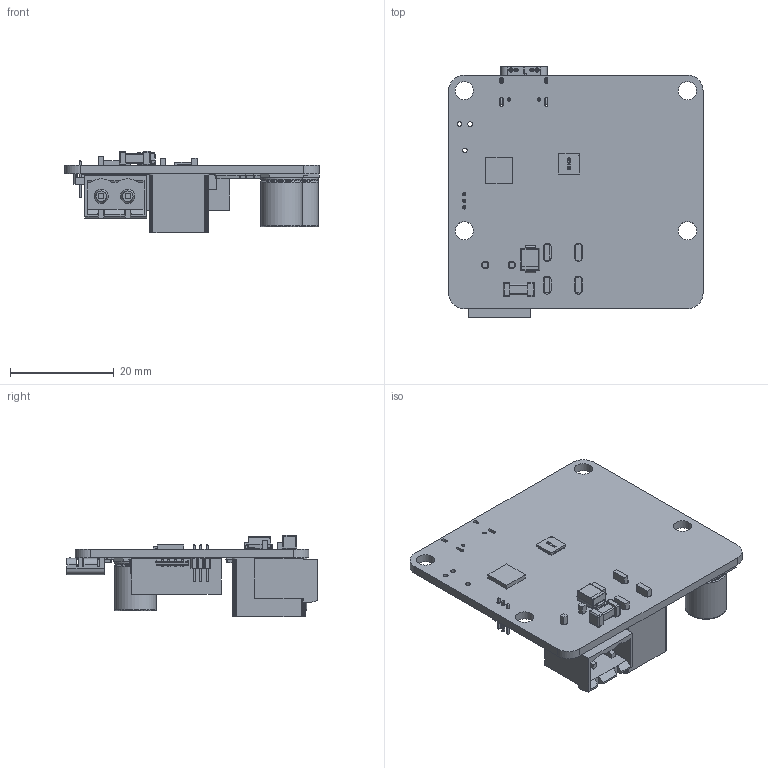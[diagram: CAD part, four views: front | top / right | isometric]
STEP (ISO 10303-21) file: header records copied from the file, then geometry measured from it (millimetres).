
FILE_DESCRIPTION(/* description */ ('Open CASCADE Model','CAx-IF Rec.Pracs.---Representation and Presentation of Product Manufacturing Information (PMI)---4.0---2014-10-13'),/* implementation_level */ '2;1');
FILE_NAME(/* name */ 'CG-PD140UM_CAD.step',/* time_stamp */ '2025-04-01T08:30:44-04:00',/* author */ (''),/* organization */ (''),/* preprocessor_version */ 'ST-DEVELOPER v20',/* originating_system */ 'Autodesk Translation Framework v13.20.0.188',/* authorisation */ '');
FILE_SCHEMA (('AP242_MANAGED_MODEL_BASED_3D_ENGINEERING_MIM_LF { 1 0 10303 442 1 1 4 }'));
Products named in the file (51): PCB; BoardCG-PD140UM; Open CASCADE STEP translator 7.5 1.1.1; CHK1CG-PD140UM; 7103303056; Extruded; 7103300496; Extruded_1; J2CG-PD140UM; User Library-DS1031-01-1x3P8BV3-1; HousingBody; Pin1Body; Pin2Body; Pin3Body; SW1CG-PD140UM; User Library-DHN-04F; 750266824; Open_CASCADE_STEP_translator_6.8_20.1; Body; Open_CASCADE_STEP_translator_6.8_20.2.1; Leader; L1CG-PD140UM; 6412445536; Extruded_2; 6412445696; Extruded_3; R11CG-PD140UM; RESC1608X55N EIA 0603; C6CG-PD140UM; U1CG-PD140UM; User Library-QFN 32; Q7CG-PD140UM; Q6CG-PD140UM; F1CG-PD140UM; User Library-Littlefuse 0451 SMD; TVS1CG-PD140UM; SMB; J1CG-PD140UM; User Library-USB - C_m; J_IN1CG-PD140UM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
Assembly tree (67 placements, depth 6):
  PCB
    BoardCG-PD140UM
      Open CASCADE STEP translator 7.5 1.1.1
    CHK1CG-PD140UM
      7103303056
        Extruded
      7103300496  x4
        Extruded_1
    J2CG-PD140UM
      User Library-DS1031-01-1x3P8BV3-1
        HousingBody
        Pin1Body
        Pin2Body
        Pin3Body
    SW1CG-PD140UM
      User Library-DHN-04F
        750266824
          Open_CASCADE_STEP_translator_6.8_20.1
          Body
            Open_CASCADE_STEP_translator_6.8_20.2.1
          Leader  x8
    L1CG-PD140UM
      6412445536  x2
        Extruded_2
      6412445696
        Extruded_3
    R11CG-PD140UM
      RESC1608X55N EIA 0603
    C6CG-PD140UM
      User Library-00001427 _ 220µF-35V [S8D0_10L2_9M1] FKserie Low ESR
    U1CG-PD140UM
      User Library-QFN 32
    Q7CG-PD140UM
      User Library-Power_Flat_5x6
    Q6CG-PD140UM
      User Library-Power_Flat_5x6
    F1CG-PD140UM
      User Library-Littlefuse 0451 SMD
    TVS1CG-PD140UM
      SMB
    J1CG-PD140UM
      User Library-USB - C_m
    J_IN1CG-PD140UM
      c-796638-2-c3-3d
    C12CG-PD140UM
      User Library-00001427 _ 220µF-35V [S8D0_10L2_9M1] FKserie Low ESR
    U3CG-PD140UM
      6421905584
        Extruded_4
    Q1CG-PD140UM
      User Library-Power_Flat_5x6
    Q3CG-PD140UM
      User Library-Power_Flat_5x6
    Q2CG-PD140UM
      User Library-Power_Flat_5x6
    Q4CG-PD140UM
      User Library-Power_Flat_5x6
Bounding box: 49.05 x 48.21 x 15.66 mm (x, y, z)
Volume: 9691.6 mm3; surface area: 10632.3 mm2
Topology: 66 solids, 74 shells, 3603 faces, 10331 edges, 7002 vertices
Faces by surface type: plane 2553, cylinder 754, bspline 203, sphere 36, torus 34, cone 23
Full cylindrical faces by diameter (mm): 0.5 x2, 0.65 x5, 0.692 x2, 0.888 x3, 1.1 x6, 1.4 x2, 3.5 x4, 7.6 x2, 8 x4
Entity records: 84251 total; most frequent: CARTESIAN_POINT 19958, ORIENTED_EDGE 13516, DIRECTION 12175, EDGE_CURVE 6759, LINE 5311, VECTOR 5311, VERTEX_POINT 4466, AXIS2_PLACEMENT_3D 3432
